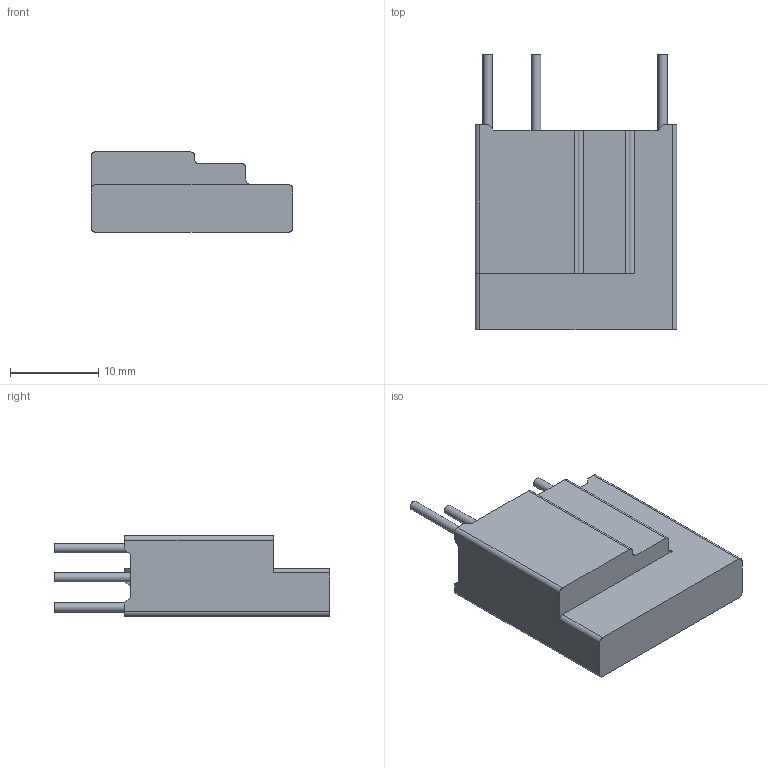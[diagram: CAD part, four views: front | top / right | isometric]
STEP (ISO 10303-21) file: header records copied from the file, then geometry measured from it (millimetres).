
FILE_DESCRIPTION(/* description */ ('Unknown'),/* implementation_level */ '2;1');
FILE_NAME(/* name */ 'TFMOV20S270-3-001',/* time_stamp */ '2024-06-24T17:23:04+08:00',/* author */ ('Unknown'),/* organization */ ('Unknown'),/* preprocessor_version */ 'ST-DEVELOPER v16.7',/* originating_system */ 'Solid Edge',/* authorisation */ 'Unknown');
FILE_SCHEMA (('AUTOMOTIVE_DESIGN {1 0 10303 214 3 1 1}'));
Length unit declared in the file: millimetre
Products named in the file (1): TFMOV20S270-3-001
Bounding box: 22.8 x 31.2 x 9.1 mm (x, y, z)
Volume: 1323.1 mm3; surface area: 3304.3 mm2
Topology: 1 solids, 2 shells, 101 faces, 281 edges, 187 vertices
Faces by surface type: plane 78, cylinder 23
Full cylindrical faces by diameter (mm): 1.05 x3
Entity records: 3218 total; most frequent: CARTESIAN_POINT 565, ORIENTED_EDGE 554, DIRECTION 528, EDGE_CURVE 277, LINE 230, VECTOR 230, VERTEX_POINT 186, AXIS2_PLACEMENT_3D 149
